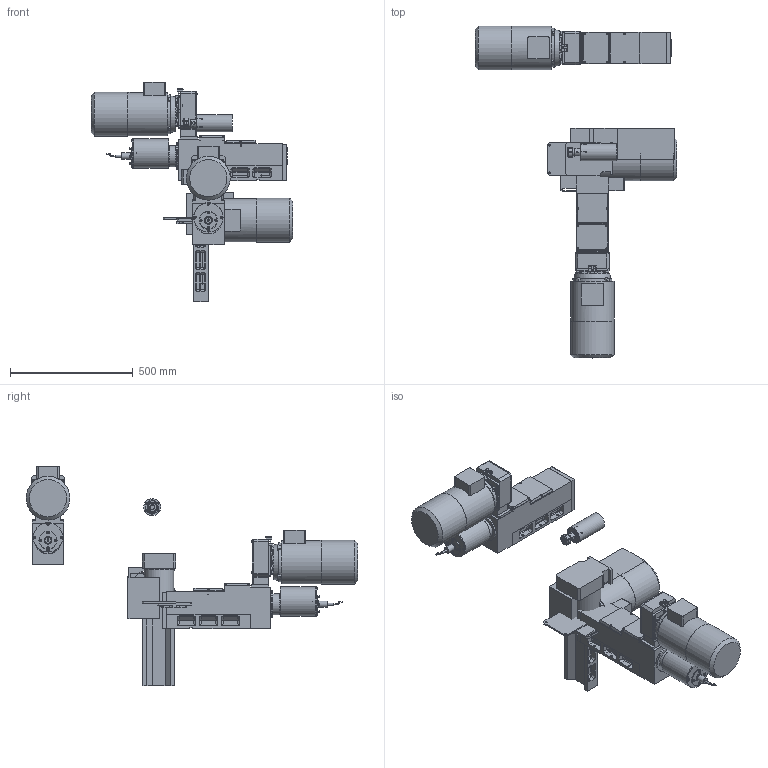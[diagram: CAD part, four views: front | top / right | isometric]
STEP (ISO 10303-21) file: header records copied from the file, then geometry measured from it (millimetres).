
FILE_DESCRIPTION( ( 'STEP AP203' ), '1' );
FILE_NAME( 'C:/Documents and Settings/Saverio/Desktop/disegni ironcad/unità serie 2/M216 (ex M220)/M 216_A02_P.stp', '2014-03-25T09:41:12', ( ' ' ), ( ' ' ), 'XStep 1.0', ' ', ' ' );
FILE_SCHEMA( ( 'CONFIG_CONTROL_DESIGN' ) );
Length unit declared in the file: metre
Products named in the file (49): Assem1; Assem2; Assem3; 1; 2; 3; 4; 5; 6; 7; 8; 9; 10; 11; 12; 13; 14; 15; 16; 17; 18; 19; 20; 21; 22; 23; 24; 25; 26; 27; 28; 29; 30; 31; 32; 33; 34; 35; 36; 37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
Bounding box: 823.57 x 1353.73 x 894.21 mm (x, y, z)
Volume: 56370535.5 mm3; surface area: 3945967.9 mm2
Topology: 138 solids, 138 shells, 3291 faces, 7497 edges, 4572 vertices
Faces by surface type: plane 1770, cylinder 834, cone 453, bspline 126, sphere 60, torus 48
Full cylindrical faces by diameter (mm): 5 x72, 5.25 x12, 5.5 x33, 6.5 x18, 6.637 x15, 6.647 x12, 7 x3, 8 x3, 8.385 x3, 8.5 x48, 8.75 x18, 18 x12, 20 x3, 20.5 x3, 24 x3, 26 x3, 30 x9, 30.5 x3, 31.2 x3, 42 x3, 52 x3, 53 x3, 54 x6, 70 x9, 74 x6, 76 x3, 80 x6, 86 x3, 95 x3, 112 x3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
Entity records: 33696 total; most frequent: CARTESIAN_POINT 8527, DIRECTION 4793, ORIENTED_EDGE 4258, EDGE_CURVE 2129, AXIS2_PLACEMENT_3D 1794, EDGE_LOOP 1503, VERTEX_POINT 1465, FACE_OUTER_BOUND 1231
